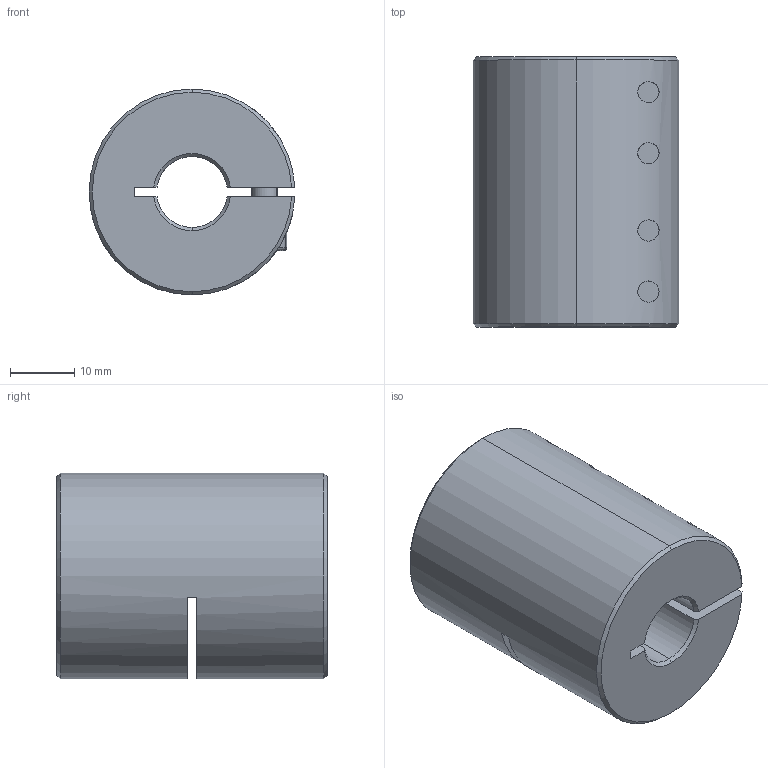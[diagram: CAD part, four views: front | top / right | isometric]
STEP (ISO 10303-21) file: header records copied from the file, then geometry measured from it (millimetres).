
FILE_DESCRIPTION (( 'STEP AP203' ), '1' );
FILE_NAME ('LL-B-D32L42-11-11.STEP', '2021-11-05T07:49:16', ( '' ), ( '' ), 'SwSTEP 2.0', 'SolidWorks 2018', '' );
FILE_SCHEMA (( 'CONFIG_CONTROL_DESIGN' ));
Length unit declared in the file: millimetre
Products named in the file (1): LL-B-D32L42-11-11
Bounding box: 31.98 x 42 x 32 mm (x, y, z)
Volume: 27529.9 mm3; surface area: 10299.2 mm2
Topology: 1 solids, 1 shells, 188 faces, 477 edges, 299 vertices
Faces by surface type: plane 86, cylinder 74, cone 20, torus 8
Entity records: 6205 total; most frequent: CARTESIAN_POINT 1529, DIRECTION 1006, ORIENTED_EDGE 938, EDGE_CURVE 469, AXIS2_PLACEMENT_3D 392, VERTEX_POINT 299, VECTOR 222, LINE 222
